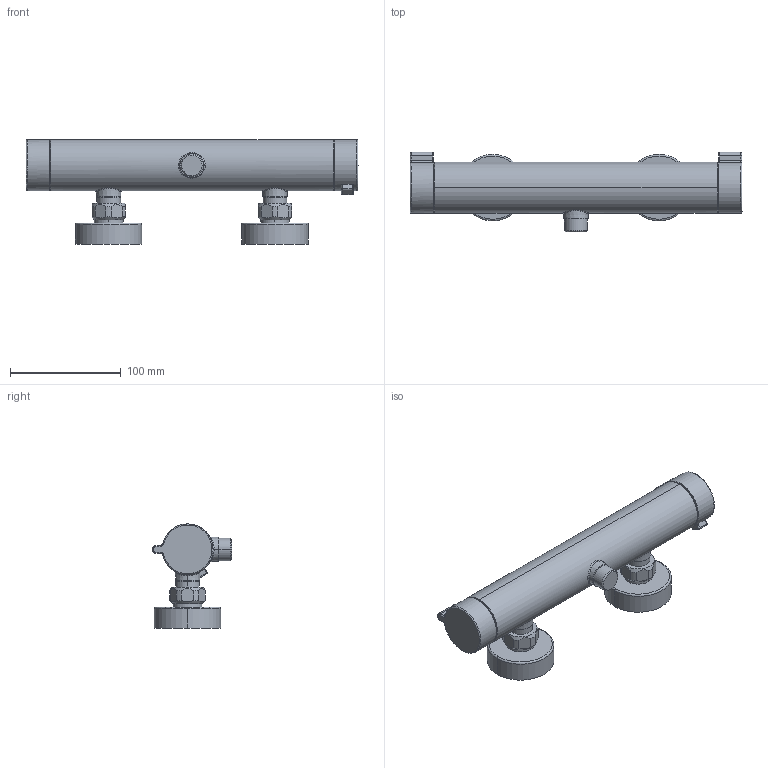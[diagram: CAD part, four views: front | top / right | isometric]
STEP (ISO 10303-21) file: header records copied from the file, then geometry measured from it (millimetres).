
FILE_DESCRIPTION((''),'2;1');
FILE_NAME('26_009_130_XXX','2019-11-01T16:21:23',('DB991'),(''),'CREO PARAMETRIC BY PTC INC, 2018500','CREO PARAMETRIC BY PTC INC, 2018500','');
FILE_SCHEMA(('CONFIG_CONTROL_DESIGN'));
Length unit declared in the file: millimetre
Products named in the file (1): 26_009_130_XXX
Bounding box: 299.55 x 72 x 94 mm (x, y, z)
Volume: 648322.7 mm3; surface area: 71286.1 mm2
Topology: 1 solids, 1 shells, 181 faces, 438 edges, 270 vertices
Faces by surface type: cylinder 52, plane 39, bspline 30, torus 28, cone 26, sphere 6
Entity records: 7956 total; most frequent: CARTESIAN_POINT 3932, ORIENTED_EDGE 868, DIRECTION 796, EDGE_CURVE 434, AXIS2_PLACEMENT_3D 344, VERTEX_POINT 270, EDGE_LOOP 196, CIRCLE 193
